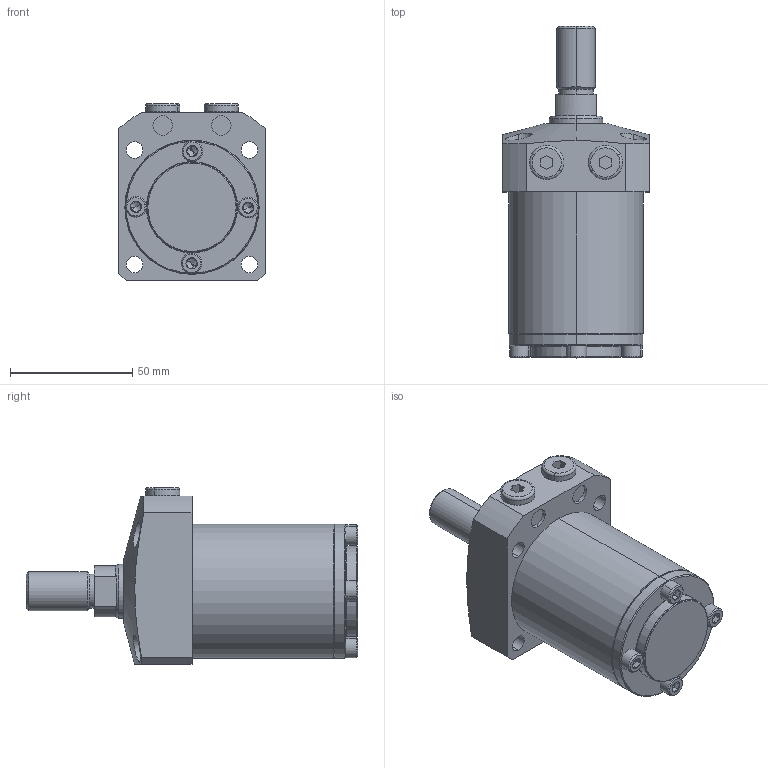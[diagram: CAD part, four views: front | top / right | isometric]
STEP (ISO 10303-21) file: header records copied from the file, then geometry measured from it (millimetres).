
FILE_DESCRIPTION (( 'STEP AP203' ), '1' );
FILE_NAME ('680550-CT-055.step', '2016-11-02T03:23:46', ( 'wxp' ), ( '' ), 'SwSTEP 2.0', 'SolidWorks 2011', '' );
FILE_SCHEMA (( 'CONFIG_CONTROL_DESIGN' ));
Length unit declared in the file: millimetre
Products named in the file (6): 680550-CT-055; 葩璃 680550-55-12^680550-CT-055; 葩璃 68055-CA-15-5^680550-CT-055; 葩璃 68055-CA-15-4^680550-CT-055; 葩璃 68055-CA-15-3^680550-CT-055; 葩璃 68055-CA-55-1^680550-CT-055
Assembly tree (9 placements, depth 2):
  680550-CT-055
    葩璃 68055-CA-15-3^680550-CT-055
    葩璃 680550-55-12^680550-CT-055
    葩璃 68055-CA-15-4^680550-CT-055  x4
    葩璃 68055-CA-55-1^680550-CT-055
    葩璃 68055-CA-15-5^680550-CT-055  x2
Bounding box: 60 x 136 x 72.5 mm (x, y, z)
Volume: 276506.1 mm3; surface area: 43852.3 mm2
Topology: 9 solids, 9 shells, 278 faces, 552 edges, 309 vertices
Faces by surface type: plane 109, cylinder 81, cone 72, torus 16
Entity records: 5442 total; most frequent: CARTESIAN_POINT 1166, DIRECTION 821, ORIENTED_EDGE 668, AXIS2_PLACEMENT_3D 342, EDGE_CURVE 334, VERTEX_POINT 202, EDGE_LOOP 192, CIRCLE 171
